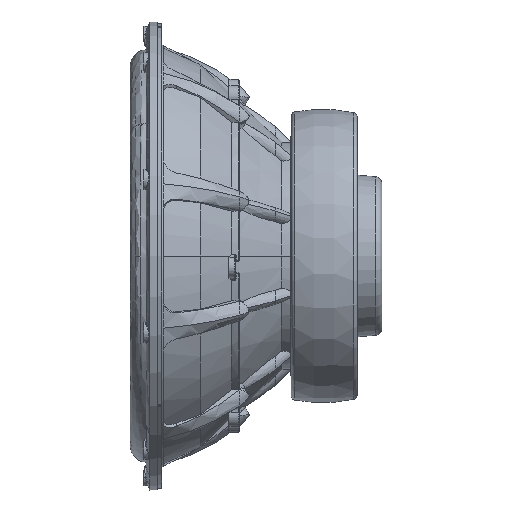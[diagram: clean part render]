
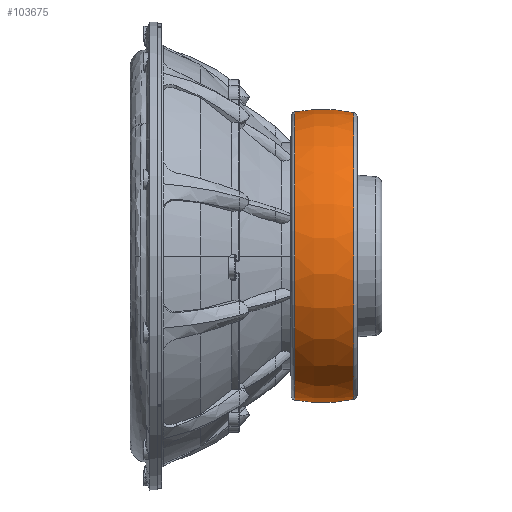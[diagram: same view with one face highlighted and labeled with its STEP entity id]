
A CAD part, left-side view. The second image highlights one B-rep face of the part: STEP entity #103675.
In plain terms, the highlighted toroidal (fillet/blend) face has major radius 0.248 mm and minor radius 100 mm.
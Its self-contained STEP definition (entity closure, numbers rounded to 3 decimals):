
#1488 = VERTEX_POINT ( 'NONE', #114258 ) ;
#3168 = EDGE_LOOP ( 'NONE', ( #112205, #122115, #87802, #90518 ) ) ;
#4970 = CARTESIAN_POINT ( 'NONE',  ( 0., -21.538, -0.248 ) ) ;
#7528 = EDGE_CURVE ( 'NONE', #76896, #30954, #107382, .T. ) ;
#8709 = CARTESIAN_POINT ( 'NONE',  ( 0., -21.538, 0. ) ) ;
#13228 = CIRCLE ( 'NONE', #64378, 97.93 ) ;
#17476 = CARTESIAN_POINT ( 'NONE',  ( 0., -2.53, -98.425 ) ) ;
#23413 = TOROIDAL_SURFACE ( 'NONE', #94884, 0.248, 100. ) ;
#24554 = CARTESIAN_POINT ( 'NONE',  ( 0., -42.942, 0. ) ) ;
#25483 = DIRECTION ( 'NONE',  ( 0., 0., 1. ) ) ;
#26336 = AXIS2_PLACEMENT_3D ( 'NONE', #77090, #28493, #123864 ) ;
#28139 = EDGE_CURVE ( 'NONE', #116156, #76896, #79489, .T. ) ;
#28493 = DIRECTION ( 'NONE',  ( 0., -1., 0. ) ) ;
#30954 = VERTEX_POINT ( 'NONE', #120685 ) ;
#31786 = DIRECTION ( 'NONE',  ( 1., 0., 0. ) ) ;
#34998 = EDGE_CURVE ( 'NONE', #116156, #1488, #115871, .T. ) ;
#35702 = DIRECTION ( 'NONE',  ( -1., 0., 0. ) ) ;
#56481 = DIRECTION ( 'NONE',  ( 0., 0., 1. ) ) ;
#58091 = CARTESIAN_POINT ( 'NONE',  ( 0., -2.53, 98.425 ) ) ;
#59967 = CARTESIAN_POINT ( 'NONE',  ( 0., -21.538, 0.248 ) ) ;
#64378 = AXIS2_PLACEMENT_3D ( 'NONE', #24554, #122421, #56481 ) ;
#65700 = DIRECTION ( 'NONE',  ( 0., -1., 0. ) ) ;
#70794 = AXIS2_PLACEMENT_3D ( 'NONE', #59967, #31786, #98346 ) ;
#76896 = VERTEX_POINT ( 'NONE', #17476 ) ;
#76898 = EDGE_CURVE ( 'NONE', #1488, #30954, #13228, .T. ) ;
#77090 = CARTESIAN_POINT ( 'NONE',  ( 0., -2.53, 0. ) ) ;
#79489 = CIRCLE ( 'NONE', #26336, 98.425 ) ;
#84901 = DIRECTION ( 'NONE',  ( 0., 0., 1. ) ) ;
#87802 = ORIENTED_EDGE ( 'NONE', *, *, #76898, .F. ) ;
#90518 = ORIENTED_EDGE ( 'NONE', *, *, #34998, .F. ) ;
#94884 = AXIS2_PLACEMENT_3D ( 'NONE', #8709, #65700, #84901 ) ;
#95750 = FACE_OUTER_BOUND ( 'NONE', #3168, .T. ) ;
#98346 = DIRECTION ( 'NONE',  ( 0., 0., -1. ) ) ;
#103675 = ADVANCED_FACE ( 'NONE', ( #95750 ), #23413, .T. ) ;
#107382 = CIRCLE ( 'NONE', #125713, 100. ) ;
#112205 = ORIENTED_EDGE ( 'NONE', *, *, #28139, .T. ) ;
#114258 = CARTESIAN_POINT ( 'NONE',  ( 0., -42.942, 97.93 ) ) ;
#115871 = CIRCLE ( 'NONE', #70794, 100. ) ;
#116156 = VERTEX_POINT ( 'NONE', #58091 ) ;
#120685 = CARTESIAN_POINT ( 'NONE',  ( 0., -42.942, -97.93 ) ) ;
#122115 = ORIENTED_EDGE ( 'NONE', *, *, #7528, .T. ) ;
#122421 = DIRECTION ( 'NONE',  ( 0., -1., 0. ) ) ;
#123864 = DIRECTION ( 'NONE',  ( 0., 0., 1. ) ) ;
#125713 = AXIS2_PLACEMENT_3D ( 'NONE', #4970, #35702, #25483 ) ;
